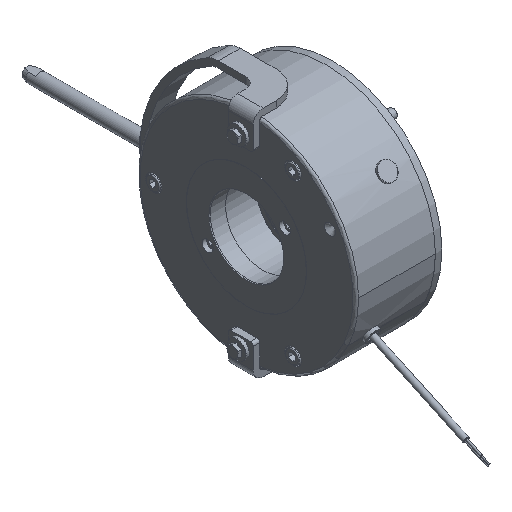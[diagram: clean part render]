
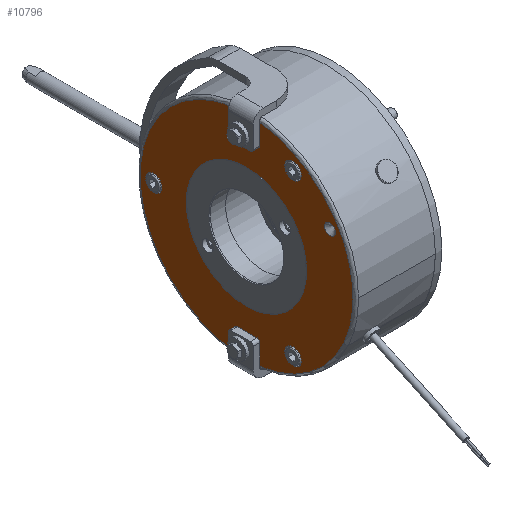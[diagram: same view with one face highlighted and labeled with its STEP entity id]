
A CAD part, isometric view. The second image highlights one B-rep face of the part: STEP entity #10796.
In plain terms, the highlighted planar face has unit normal (-1, 0, 0).
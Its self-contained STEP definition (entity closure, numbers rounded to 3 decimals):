
#457=FACE_BOUND('',#1627,.T.);
#458=FACE_BOUND('',#1628,.T.);
#459=FACE_BOUND('',#1629,.T.);
#460=FACE_BOUND('',#1630,.T.);
#461=FACE_BOUND('',#1631,.T.);
#579=PLANE('',#11823);
#983=FACE_OUTER_BOUND('',#1626,.T.);
#1626=EDGE_LOOP('',(#8124,#8125,#8126,#8127,#8128,#8129,#8130,#8131,#8132,
#8133,#8134,#8135));
#1627=EDGE_LOOP('',(#8136,#8137));
#1628=EDGE_LOOP('',(#8138,#8139));
#1629=EDGE_LOOP('',(#8140,#8141));
#1630=EDGE_LOOP('',(#8142,#8143));
#1631=EDGE_LOOP('',(#8144,#8145));
#2218=LINE('',#18432,#2756);
#2219=LINE('',#18436,#2757);
#2220=LINE('',#18439,#2758);
#2221=LINE('',#18441,#2759);
#2222=LINE('',#18445,#2760);
#2223=LINE('',#18448,#2761);
#2756=VECTOR('',#14217,10.);
#2757=VECTOR('',#14220,10.);
#2758=VECTOR('',#14223,10.);
#2759=VECTOR('',#14224,10.);
#2760=VECTOR('',#14227,10.);
#2761=VECTOR('',#14230,10.);
#3296=CIRCLE('',#11645,55.);
#3297=CIRCLE('',#11646,55.);
#3327=CIRCLE('',#11687,7.5);
#3328=CIRCLE('',#11688,7.5);
#3333=CIRCLE('',#11696,7.5);
#3334=CIRCLE('',#11697,7.5);
#3339=CIRCLE('',#11705,7.5);
#3340=CIRCLE('',#11706,7.5);
#3347=CIRCLE('',#11717,97.5);
#3350=CIRCLE('',#11720,97.5);
#3382=CIRCLE('',#11766,5.);
#3383=CIRCLE('',#11767,5.);
#3414=CIRCLE('',#11824,2.5);
#3415=CIRCLE('',#11825,2.5);
#3416=CIRCLE('',#11826,2.5);
#3417=CIRCLE('',#11827,2.5);
#4264=VERTEX_POINT('',#18086);
#4265=VERTEX_POINT('',#18087);
#4291=VERTEX_POINT('',#18159);
#4292=VERTEX_POINT('',#18160);
#4297=VERTEX_POINT('',#18176);
#4298=VERTEX_POINT('',#18177);
#4303=VERTEX_POINT('',#18193);
#4304=VERTEX_POINT('',#18194);
#4311=VERTEX_POINT('',#18239);
#4312=VERTEX_POINT('',#18241);
#4314=VERTEX_POINT('',#18245);
#4315=VERTEX_POINT('',#18247);
#4344=VERTEX_POINT('',#18330);
#4345=VERTEX_POINT('',#18331);
#4371=VERTEX_POINT('',#18431);
#4372=VERTEX_POINT('',#18433);
#4373=VERTEX_POINT('',#18435);
#4374=VERTEX_POINT('',#18437);
#4375=VERTEX_POINT('',#18440);
#4376=VERTEX_POINT('',#18442);
#4377=VERTEX_POINT('',#18444);
#4378=VERTEX_POINT('',#18446);
#5551=EDGE_CURVE('',#4264,#4265,#3296,.T.);
#5552=EDGE_CURVE('',#4265,#4264,#3297,.T.);
#5586=EDGE_CURVE('',#4291,#4292,#3327,.T.);
#5587=EDGE_CURVE('',#4292,#4291,#3328,.T.);
#5594=EDGE_CURVE('',#4297,#4298,#3333,.T.);
#5595=EDGE_CURVE('',#4298,#4297,#3334,.T.);
#5602=EDGE_CURVE('',#4303,#4304,#3339,.T.);
#5603=EDGE_CURVE('',#4304,#4303,#3340,.T.);
#5615=EDGE_CURVE('',#4311,#4312,#3347,.T.);
#5618=EDGE_CURVE('',#4314,#4315,#3350,.T.);
#5658=EDGE_CURVE('',#4344,#4345,#3382,.T.);
#5659=EDGE_CURVE('',#4345,#4344,#3383,.T.);
#5706=EDGE_CURVE('',#4311,#4371,#2218,.T.);
#5707=EDGE_CURVE('',#4371,#4372,#3414,.T.);
#5708=EDGE_CURVE('',#4372,#4373,#2219,.T.);
#5709=EDGE_CURVE('',#4373,#4374,#3415,.T.);
#5710=EDGE_CURVE('',#4374,#4315,#2220,.T.);
#5711=EDGE_CURVE('',#4314,#4375,#2221,.T.);
#5712=EDGE_CURVE('',#4375,#4376,#3416,.T.);
#5713=EDGE_CURVE('',#4376,#4377,#2222,.T.);
#5714=EDGE_CURVE('',#4377,#4378,#3417,.T.);
#5715=EDGE_CURVE('',#4378,#4312,#2223,.T.);
#8124=ORIENTED_EDGE('',*,*,#5706,.T.);
#8125=ORIENTED_EDGE('',*,*,#5707,.T.);
#8126=ORIENTED_EDGE('',*,*,#5708,.T.);
#8127=ORIENTED_EDGE('',*,*,#5709,.T.);
#8128=ORIENTED_EDGE('',*,*,#5710,.T.);
#8129=ORIENTED_EDGE('',*,*,#5618,.F.);
#8130=ORIENTED_EDGE('',*,*,#5711,.T.);
#8131=ORIENTED_EDGE('',*,*,#5712,.T.);
#8132=ORIENTED_EDGE('',*,*,#5713,.T.);
#8133=ORIENTED_EDGE('',*,*,#5714,.T.);
#8134=ORIENTED_EDGE('',*,*,#5715,.T.);
#8135=ORIENTED_EDGE('',*,*,#5615,.F.);
#8136=ORIENTED_EDGE('',*,*,#5602,.T.);
#8137=ORIENTED_EDGE('',*,*,#5603,.T.);
#8138=ORIENTED_EDGE('',*,*,#5594,.T.);
#8139=ORIENTED_EDGE('',*,*,#5595,.T.);
#8140=ORIENTED_EDGE('',*,*,#5586,.T.);
#8141=ORIENTED_EDGE('',*,*,#5587,.T.);
#8142=ORIENTED_EDGE('',*,*,#5551,.T.);
#8143=ORIENTED_EDGE('',*,*,#5552,.T.);
#8144=ORIENTED_EDGE('',*,*,#5658,.T.);
#8145=ORIENTED_EDGE('',*,*,#5659,.T.);
#10796=ADVANCED_FACE('',(#983,#457,#458,#459,#460,#461),#579,.T.);
#11645=AXIS2_PLACEMENT_3D('',#18088,#13823,#13824);
#11646=AXIS2_PLACEMENT_3D('',#18089,#13825,#13826);
#11687=AXIS2_PLACEMENT_3D('',#18161,#13911,#13912);
#11688=AXIS2_PLACEMENT_3D('',#18162,#13913,#13914);
#11696=AXIS2_PLACEMENT_3D('',#18178,#13931,#13932);
#11697=AXIS2_PLACEMENT_3D('',#18179,#13933,#13934);
#11705=AXIS2_PLACEMENT_3D('',#18195,#13951,#13952);
#11706=AXIS2_PLACEMENT_3D('',#18196,#13953,#13954);
#11717=AXIS2_PLACEMENT_3D('',#18242,#13979,#13980);
#11720=AXIS2_PLACEMENT_3D('',#18248,#13985,#13986);
#11766=AXIS2_PLACEMENT_3D('',#18332,#14085,#14086);
#11767=AXIS2_PLACEMENT_3D('',#18333,#14087,#14088);
#11823=AXIS2_PLACEMENT_3D('',#18430,#14215,#14216);
#11824=AXIS2_PLACEMENT_3D('',#18434,#14218,#14219);
#11825=AXIS2_PLACEMENT_3D('',#18438,#14221,#14222);
#11826=AXIS2_PLACEMENT_3D('',#18443,#14225,#14226);
#11827=AXIS2_PLACEMENT_3D('',#18447,#14228,#14229);
#13823=DIRECTION('center_axis',(1.,0.,0.));
#13824=DIRECTION('ref_axis',(0.,1.,0.));
#13825=DIRECTION('center_axis',(1.,0.,0.));
#13826=DIRECTION('ref_axis',(0.,1.,0.));
#13911=DIRECTION('center_axis',(1.,0.,0.));
#13912=DIRECTION('ref_axis',(0.,0.,1.));
#13913=DIRECTION('center_axis',(1.,0.,0.));
#13914=DIRECTION('ref_axis',(0.,0.,1.));
#13931=DIRECTION('center_axis',(1.,0.,0.));
#13932=DIRECTION('ref_axis',(0.,-0.866,-0.5));
#13933=DIRECTION('center_axis',(1.,0.,0.));
#13934=DIRECTION('ref_axis',(0.,-0.866,-0.5));
#13951=DIRECTION('center_axis',(1.,0.,0.));
#13952=DIRECTION('ref_axis',(0.,0.866,-0.5));
#13953=DIRECTION('center_axis',(1.,0.,0.));
#13954=DIRECTION('ref_axis',(0.,0.866,-0.5));
#13979=DIRECTION('center_axis',(1.,0.,0.));
#13980=DIRECTION('ref_axis',(0.,-1.,0.));
#13985=DIRECTION('center_axis',(1.,0.,0.));
#13986=DIRECTION('ref_axis',(0.,-1.,0.));
#14085=DIRECTION('center_axis',(1.,0.,0.));
#14086=DIRECTION('ref_axis',(0.,0.,1.));
#14087=DIRECTION('center_axis',(1.,0.,0.));
#14088=DIRECTION('ref_axis',(0.,0.,1.));
#14215=DIRECTION('center_axis',(-1.,0.,0.));
#14216=DIRECTION('ref_axis',(0.,0.,1.));
#14217=DIRECTION('',(0.,0.,-1.));
#14218=DIRECTION('center_axis',(1.,0.,0.));
#14219=DIRECTION('ref_axis',(0.,-0.707,-0.707));
#14220=DIRECTION('',(0.,1.,0.));
#14221=DIRECTION('center_axis',(1.,0.,0.));
#14222=DIRECTION('ref_axis',(0.,0.707,-0.707));
#14223=DIRECTION('',(0.,0.,1.));
#14224=DIRECTION('',(0.,0.,1.));
#14225=DIRECTION('center_axis',(1.,0.,0.));
#14226=DIRECTION('ref_axis',(0.,0.707,0.707));
#14227=DIRECTION('',(0.,-1.,0.));
#14228=DIRECTION('center_axis',(1.,0.,0.));
#14229=DIRECTION('ref_axis',(0.,-0.707,0.707));
#14230=DIRECTION('',(0.,0.,-1.));
#18086=CARTESIAN_POINT('',(-72.8,55.,0.));
#18087=CARTESIAN_POINT('',(-72.8,-55.,0.));
#18088=CARTESIAN_POINT('Origin',(-72.8,0.,0.));
#18089=CARTESIAN_POINT('Origin',(-72.8,0.,0.));
#18159=CARTESIAN_POINT('',(-72.8,85.,7.5));
#18160=CARTESIAN_POINT('',(-72.8,85.,-7.5));
#18161=CARTESIAN_POINT('Origin',(-72.8,85.,0.));
#18162=CARTESIAN_POINT('Origin',(-72.8,85.,0.));
#18176=CARTESIAN_POINT('',(-72.8,-48.995,69.862));
#18177=CARTESIAN_POINT('',(-72.8,-36.005,77.362));
#18178=CARTESIAN_POINT('Origin',(-72.8,-42.5,73.612));
#18179=CARTESIAN_POINT('Origin',(-72.8,-42.5,73.612));
#18193=CARTESIAN_POINT('',(-72.8,-36.005,-77.362));
#18194=CARTESIAN_POINT('',(-72.8,-48.995,-69.862));
#18195=CARTESIAN_POINT('Origin',(-72.8,-42.5,-73.612));
#18196=CARTESIAN_POINT('Origin',(-72.8,-42.5,-73.612));
#18239=CARTESIAN_POINT('',(-72.8,-12.,96.759));
#18241=CARTESIAN_POINT('',(-72.8,-12.,-96.759));
#18242=CARTESIAN_POINT('Origin',(-72.8,0.,0.));
#18245=CARTESIAN_POINT('',(-72.8,11.,-96.877));
#18247=CARTESIAN_POINT('',(-72.8,11.,96.877));
#18248=CARTESIAN_POINT('Origin',(-72.8,0.,0.));
#18330=CARTESIAN_POINT('',(-72.8,-76.21,49.));
#18331=CARTESIAN_POINT('',(-72.8,-76.21,39.));
#18332=CARTESIAN_POINT('Origin',(-72.8,-76.21,44.));
#18333=CARTESIAN_POINT('Origin',(-72.8,-76.21,44.));
#18430=CARTESIAN_POINT('Origin',(-72.8,77.5,0.));
#18431=CARTESIAN_POINT('',(-72.8,-12.,78.));
#18432=CARTESIAN_POINT('',(-72.8,-12.,53.25));
#18433=CARTESIAN_POINT('',(-72.8,-9.5,75.5));
#18434=CARTESIAN_POINT('Origin',(-72.8,-9.5,78.));
#18435=CARTESIAN_POINT('',(-72.8,8.5,75.5));
#18436=CARTESIAN_POINT('',(-72.8,44.25,75.5));
#18437=CARTESIAN_POINT('',(-72.8,11.,78.));
#18438=CARTESIAN_POINT('Origin',(-72.8,8.5,78.));
#18439=CARTESIAN_POINT('',(-72.8,11.,50.25));
#18440=CARTESIAN_POINT('',(-72.8,11.,-78.));
#18441=CARTESIAN_POINT('',(-72.8,11.,-53.25));
#18442=CARTESIAN_POINT('',(-72.8,8.5,-75.5));
#18443=CARTESIAN_POINT('Origin',(-72.8,8.5,-78.));
#18444=CARTESIAN_POINT('',(-72.8,-9.5,-75.5));
#18445=CARTESIAN_POINT('',(-72.8,32.75,-75.5));
#18446=CARTESIAN_POINT('',(-72.8,-12.,-78.));
#18447=CARTESIAN_POINT('Origin',(-72.8,-9.5,-78.));
#18448=CARTESIAN_POINT('',(-72.8,-12.,-50.25));
